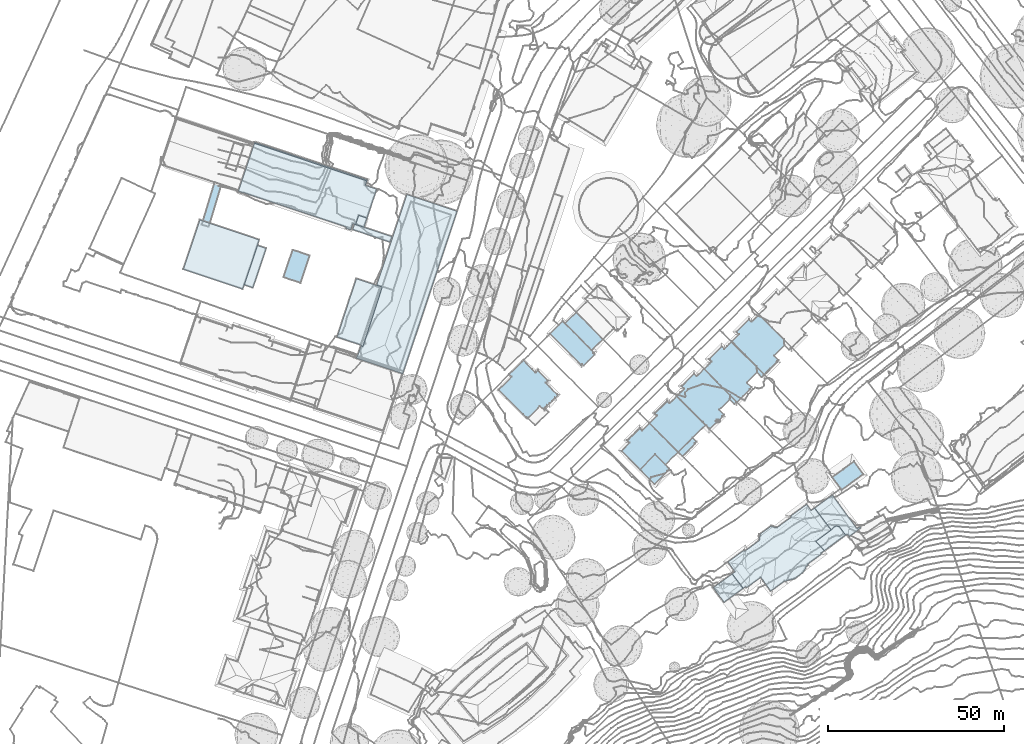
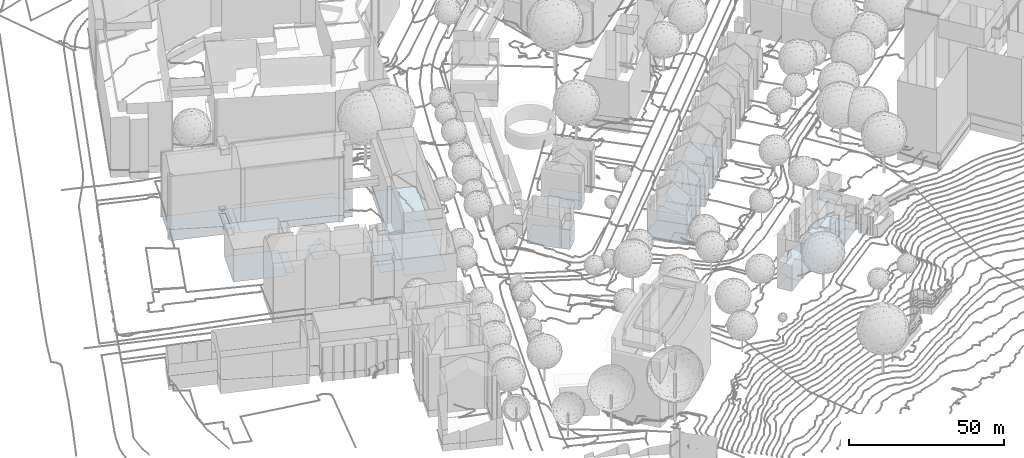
# Not in any storey, part 2 of 477: 14 footings.
"""IFC4 building model written with IfcOpenShell, lengths in metres."""

from ifc_helpers import new_model, si_unit, frame, origin_with_axes, place, context, subcontext, project, spatial, polygons, element, save


model = new_model("IFC4")

# Units and contexts
model_context = context("Model", 3, precision=1e-05, world=origin_with_axes())
body_context = subcontext(model_context, "Body", "Model", "MODEL_VIEW")
ifc_project = project(units=[si_unit("AREAUNIT", "SQUARE_METRE"), si_unit("LENGTHUNIT", "METRE")], contexts=[model_context])

# Sites, building
site_1_placement = place(None, origin_with_axes())
site_1 = spatial("IfcSite", under=ifc_project, at=site_1_placement, Name="Topoexport Site")
site_2_placement = place(site_1_placement, origin_with_axes())
site_2 = spatial("IfcSite", under=site_1, at=site_2_placement, Name="TPX_BUILDINGS")
building_1_placement = place(site_2_placement, frame((173.5807320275, 98.186316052, 528.0961), z_axis=(0.0, 0.0, 1.0), x_axis=(1.0, 0.0, 0.0)))
building_1 = spatial("IfcBuilding", under=site_2, at=building_1_placement, Name="Building 31", CompositionType="ELEMENT")

# Footing
footing_1_placement = place(None, frame((173.5807320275, 98.186316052, 528.0961), z_axis=(0.0, 0.0, 1.0), x_axis=(1.0, 0.0, 0.0)))
element("IfcFooting", 1, at=footing_1_placement, inside=building_1, Name="Floor 0", context=body_context, shape_type="Tessellation", body=[
    polygons([(2.6099999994, 1.9063000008, 0.0), (8.8049999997, 0.8584000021, -0.0001), (2.5949999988, -3.5537, -0.0001), (4.8889999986, 3.5703000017, 0.0), (6.1530000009, 4.4932000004, 0.0), (5.748999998, -1.373999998, -0.0001), (1.0150000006, 0.7412, 0.0), (0.0, 0.0, 0.0), (2.6530000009, -3.6347000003, -0.0001)], [[[1, 2, 3]], [[4, 5, 2]], [[2, 1, 4]], [[2, 6, 3]], [[1, 3, 7]], [[8, 7, 3]], [[9, 3, 6]]]),
])

# Building
building_2_placement = place(site_2_placement, frame((160.7467320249, 68.8533160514, 524.6524), z_axis=(0.0, 0.0, 1.0), x_axis=(1.0, 0.0, 0.0)))
building_2 = spatial("IfcBuilding", under=site_2, at=building_2_placement, Name="Building 63", CompositionType="ELEMENT")

# Footing
footing_2_placement = place(None, frame((160.7467320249, 68.8533160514, 524.6524), z_axis=(0.0, 0.0, 1.0), x_axis=(1.0, 0.0, 0.0)))
element("IfcFooting", 2, at=footing_2_placement, inside=building_2, Name="Floor 1", context=body_context, shape_type="Tessellation", body=[
    polygons([(13.4810000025, 15.2655999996, 0.1969), (13.8940000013, 15.4824000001, 0.1969), (14.825000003, 15.2588, 0.1969), (16.5910000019, 12.8867000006, 0.1969), (12.4710000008, 14.3535000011, 0.1969), (8.1400000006, 11.0918000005, 0.1969), (10.5880000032, 8.4688000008, 0.1969), (-15.1559999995, -4.1854999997, -0.22), (-16.4949999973, -5.1631000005, -0.22), (-20.1969999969, -3.182599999, -0.22), (-17.2149999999, -5.6893999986, -0.22), (-18.2019999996, 0.009800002, -0.22), (-12.5309999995, -2.2675999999, -0.22), (-17.9599999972, -6.2333999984, -0.22), (-18.8389999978, -0.4569999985, -0.22), (-18.432, -0.1581999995, -0.22), (-21.0489999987, -2.0194999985, -0.22), (-15.6519999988, 1.8780000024, -0.22), (-17.981999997, 0.1709000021, -0.22), (-12.0789999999, 8.3399000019, -0.068), (-14.867999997, 2.4521999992, -0.068), (-16.9019999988, 5.2382999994, -0.068), (-12.2789999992, 8.6132999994, -0.068), (-8.0589999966, 11.2774000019, -0.068), (-7.9549999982, 12.2197000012, -0.068), (-7.9149999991, 12.2481000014, -0.068), (-7.8889999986, 12.0234999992, -0.068), (-7.9919999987, 12.3535000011, -0.068), (-7.5029999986, 12.7217000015, -0.068), (-3.6639999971, 15.1104000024, -0.068), (-7.875, 11.8164000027, -0.068), (-8.0029999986, 11.4268000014, -0.068), (-8.0879999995, 11.317400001, -0.068), (-7.8959999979, 11.6797000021, -0.068), (-3.4719999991, 15.0342000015, -0.068), (-7.9389999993, 11.5489000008, -0.068), (-3.3369999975, 15.0117000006, -0.068), (-3.1989999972, 15.0127000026, -0.068), (-2.9029999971, 15.0430000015, -0.068), (-15.6519999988, 1.8780000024, -0.068), (-12.5299999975, -2.2675999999, -0.068), (-11.6019999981, -2.1092999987, -0.068), (-11.8499999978, -1.7705000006, -0.068), (-11.0119999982, -1.6787, -0.068), (-7.5319999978, 0.8632999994, -0.068), (-10.9069999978, -1.6024999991, -0.068), (-6.0219999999, -1.1981999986, -0.068), (-4.1559999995, -2.6512999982, -0.068), (-4.6849999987, -3.0381000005, -0.068), (6.8060000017, 19.9081999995, -0.068), (5.7530000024, 4.5976999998, -0.068), (-0.6710000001, -0.1053999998, -0.068), (-1.8509999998, -0.9677000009, -0.068), (0.0340000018, 0.0234999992, -0.068), (-0.4979999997, -0.3418000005, -0.068), (-7.4729999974, 0.7959000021, -0.068), (8.1400000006, 11.0918000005, -0.068), (1.0109999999, 0.1504000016, -0.068), (0.5250000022, 0.067400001, -0.068), (5.2080000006, 3.4942000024, -0.068), (1.4870000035, 0.2754000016, -0.068), (1.4650000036, 0.2675999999, -0.068), (4.9700000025, 3.0362000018, -0.068), (5.4050000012, 3.9717000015, -0.068), (-4.2929999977, 15.2754000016, -0.068), (-4.5849999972, 15.4717000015, -0.068), (-4.4869999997, 15.5419999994, -0.068), (-4.2719999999, 15.2910000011, -0.068), (-4.2079999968, 15.2050999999, -0.068), (-3.8699999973, 15.2030999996, -0.068), (-3.9909999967, 15.3682000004, -0.068), (-3.8299999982, 15.2324000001, -0.068), (0.9130000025, 18.2558999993, -0.068), (5.5450000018, 21.6367000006, -0.068), (1.1150000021, 17.9785000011, -0.068), (-3.0629999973, 15.0371000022, -0.068), (-2.9339999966, 15.0850000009, -0.068), (5.9300000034, 4.3544999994, -0.068), (1.9539999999, 0.4356000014, -0.068), (4.3800000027, 2.1933999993, -0.068), (2.1630000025, 0.5274000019, -0.068), (4.694000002, 2.6006000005, -0.068), (0.9360000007, 17.8476999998, -0.068), (7.762000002, 20.6064999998, -0.068), (12.4710000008, 14.3535000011, -0.068), (9.6160000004, 7.7530000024, -0.068), (9.7750000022, 7.5351999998, -0.068), (10.5880000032, 8.4688000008, -0.068), (-7.8029999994, 13.1220999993, -0.068), (14.4370000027, 22.1143000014, 0.3329), (10.9910000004, 16.3252000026, 0.3329), (8.9000000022, 19.0967000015, 0.3329), (7.762000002, 20.6064999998, 0.3329), (12.9020000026, 24.2178000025, 0.3329), (12.8330000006, 24.3115000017, 0.3329), (13.8940000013, 15.4824000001, 0.3329), (12.4710000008, 14.3535000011, 0.3329), (13.4810000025, 15.2655999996, 0.3329), (16.813000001, 13.0498000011, 0.3329), (16.5910000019, 12.8867000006, 0.3329), (14.825000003, 15.2588, 0.3329), (19.2700000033, 15.4932000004, 0.3329), (19.5520000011, 15.1084000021, 0.3329), (17.2290000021, 13.0381000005, 0.3329), (20.7070000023, 15.2646999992, 0.3329), (20.9470000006, 14.9453000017, 0.3329), (20.2410000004, 15.0205000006, 0.3329), (19.7880000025, 14.7842000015, 0.3329), (16.9630000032, 12.8438000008, 0.3329), (17.6490000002, 12.4600000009, 0.3329), (17.2780000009, 12.9706999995, 0.3329)], [[[1, 2, 3]], [[3, 4, 5]], [[6, 5, 7]], [[3, 5, 1]], [[4, 7, 5]], [[8, 9, 10]], [[10, 9, 11]], [[8, 12, 13]], [[14, 10, 11]], [[15, 16, 10]], [[10, 17, 15]], [[18, 13, 19]], [[12, 19, 13]], [[16, 12, 8]], [[16, 8, 10]], [[20, 21, 22]], [[23, 20, 22]], [[20, 24, 21]], [[25, 26, 27]], [[28, 29, 26]], [[29, 27, 26]], [[27, 30, 31]], [[32, 24, 33]], [[34, 31, 35]], [[36, 34, 37]], [[36, 24, 32]], [[36, 38, 24]], [[39, 21, 24]], [[40, 21, 41]], [[42, 43, 44]], [[43, 41, 21]], [[43, 21, 45]], [[43, 46, 44]], [[47, 48, 49]], [[45, 46, 43]], [[50, 45, 21]], [[47, 51, 52]], [[53, 48, 47]], [[47, 52, 53]], [[52, 54, 55]], [[56, 57, 47]], [[58, 59, 60]], [[61, 62, 58]], [[61, 58, 63]], [[51, 54, 52]], [[54, 64, 59]], [[57, 56, 45]], [[29, 30, 27]], [[65, 29, 66]], [[65, 66, 67]], [[68, 69, 65]], [[69, 29, 65]], [[29, 70, 30]], [[69, 71, 70]], [[30, 70, 72]], [[69, 70, 29]], [[35, 31, 30]], [[34, 35, 37]], [[73, 74, 75]], [[39, 24, 38]], [[38, 76, 39]], [[36, 37, 38]], [[76, 77, 39]], [[60, 59, 64]], [[78, 64, 51]], [[51, 47, 57]], [[64, 54, 51]], [[58, 60, 63]], [[79, 80, 81]], [[82, 80, 79]], [[61, 82, 79]], [[82, 61, 63]], [[50, 21, 39]], [[75, 50, 83]], [[84, 85, 50]], [[75, 74, 50]], [[45, 50, 57]], [[50, 85, 57]], [[51, 86, 87]], [[57, 88, 86]], [[86, 51, 57]], [[83, 50, 39]], [[29, 89, 66]], [[90, 91, 92]], [[92, 93, 90]], [[90, 93, 94]], [[93, 95, 94]], [[90, 96, 91]], [[97, 91, 98]], [[98, 91, 96]], [[99, 100, 101]], [[99, 101, 102]], [[90, 101, 96]], [[90, 102, 101]], [[103, 104, 102]], [[105, 106, 107]], [[106, 108, 107]], [[99, 104, 109]], [[108, 110, 111]], [[111, 104, 108]], [[108, 106, 110]], [[103, 108, 104]], [[102, 104, 99]]]),
])

# Building
building_3_placement = place(site_2_placement, frame((78.7667320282, 123.0301160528, 529.3211), z_axis=(0.0, 0.0, 1.0), x_axis=(1.0, 0.0, 0.0)))
building_3 = spatial("IfcBuilding", under=site_2, at=building_3_placement, Name="Building 135", CompositionType="ELEMENT")

# Footing
footing_3_placement = place(None, frame((78.7667320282, 123.0301160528, 529.3211), z_axis=(0.0, 0.0, 1.0), x_axis=(1.0, 0.0, 0.0)))
element("IfcFooting", 3, at=footing_3_placement, inside=building_3, Name="Floor 0", context=body_context, shape_type="Tessellation", body=[
    polygons([(16.7109999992, -1.625, -0.0001), (16.5169999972, -1.2813000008, -0.0001), (16.7819999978, -1.5547000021, -0.0001), (14.4459999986, 0.8535000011, -0.0001), (16.0089999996, -2.3194000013, -0.0001), (15.4229999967, -2.9004000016, -0.0001), (13.3699999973, 1.9628999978, 0.0), (15.1199999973, -3.1992000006, -0.0001), (14.436999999, -3.875, -0.0001), (10.4769999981, 4.8680999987, 0.0), (3.7009999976, 3.6631000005, 0.0), (10.6209999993, 5.0106999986, 0.0), (13.9399999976, 2.6543000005, 0.0), (14.0039999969, 2.5907999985, 0.0), (11.1199999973, 5.5058000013, 0.0), (6.5949999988, 7.9648000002, 0.0), (9.5, 5.8563999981, 0.0), (7.0089999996, 8.375, 0.0), (7.0219999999, 8.3612999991, 0.0), (13.7709999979, -4.5351999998, -0.0001), (13.2909999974, -5.009800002, -0.0001), (13.0449999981, -5.2529000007, -0.0001), (13.5549999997, -4.7481000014, -0.0001), (13.3609999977, -5.572300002, -0.0001), (10.2869999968, -10.1006000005, -0.0001), (8.2649999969, -8.126000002, -0.0001), (8.2419999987, -8.1493999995, -0.0001), (7.930999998, -7.8350000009, -0.0001), (14.1019999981, -6.3213, -0.0001), (6.8609999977, -6.9365000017, -0.0001), (2.981999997, 4.3896000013, 0.0), (0.0, 0.0, 0.0), (7.8399999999, -7.9257999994, -0.0001)], [[[1, 2, 3]], [[4, 2, 5]], [[1, 5, 2]], [[6, 7, 4]], [[8, 9, 10]], [[8, 7, 6]], [[5, 6, 4]], [[9, 11, 10]], [[7, 12, 13]], [[13, 14, 7]], [[13, 12, 15]], [[10, 12, 7]], [[10, 11, 16]], [[10, 16, 17]], [[16, 18, 19]], [[19, 17, 16]], [[8, 10, 7]], [[20, 11, 9]], [[21, 22, 11]], [[23, 21, 11]], [[24, 25, 22]], [[26, 22, 25]], [[27, 28, 26]], [[22, 26, 28]], [[29, 25, 24]], [[30, 22, 28]], [[11, 31, 16]], [[30, 32, 11]], [[30, 11, 22]], [[30, 28, 33]], [[11, 20, 23]]]),
])

# Building
building_4_placement = place(site_2_placement, frame((93.366732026, 139.0154160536, 529.92), z_axis=(0.0, 0.0, 1.0), x_axis=(1.0, 0.0, 0.0)))
building_4 = spatial("IfcBuilding", under=site_2, at=building_4_placement, Name="Building 141", CompositionType="ELEMENT")

# Footing
footing_4_placement = place(None, frame((93.366732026, 139.0154160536, 529.92), z_axis=(0.0, 0.0, 1.0), x_axis=(1.0, 0.0, 0.0)))
element("IfcFooting", 4, at=footing_4_placement, inside=building_4, Name="Floor 0", context=body_context, shape_type="Tessellation", body=[
    polygons([(9.0810000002, -8.7324000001, 0.0), (12.6420000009, -5.9756000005, 0.0), (9.506000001, -9.1621000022, 0.0), (12.2569999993, -5.5868999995, 0.0), (12.2200000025, -5.1377000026, 0.0), (12.4629999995, -5.3828000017, 0.0), (0.0, 0.0, 0.0), (3.5109999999, 3.4775999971, 0.0), (0.0580000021, -0.0576000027, 0.0), (3.6000000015, 3.5654999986, 0.0), (8.8610000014, -8.951100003, 0.0), (15.0190000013, -1.5849000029, 0.104), (11.8300000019, -4.7441000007, 0.104), (4.25, 2.9423999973, 0.104), (11.307, 2.1943999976, 0.104), (7.4539999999, 6.1162, 0.104), (3.8320000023, 3.3310999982, 0.104), (3.8489999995, 3.3486999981, 0.104)], [[[1, 2, 3]], [[2, 1, 4]], [[4, 5, 6]], [[5, 4, 1]], [[7, 8, 9]], [[1, 9, 8]], [[10, 5, 8]], [[5, 1, 8]], [[11, 9, 1]], [[12, 13, 14]], [[15, 12, 14]], [[14, 16, 15]], [[17, 18, 14]], [[14, 13, 17]]]),
])

# Building
building_5_placement = place(site_2_placement, frame((-17.4142679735, 188.431416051, 525.0686), z_axis=(0.0, 0.0, 1.0), x_axis=(1.0, 0.0, 0.0)))
building_5 = spatial("IfcBuilding", under=site_2, at=building_5_placement, Name="Building 144", CompositionType="ELEMENT")

# Footing
footing_5_placement = place(None, frame((-17.4142679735, 188.431416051, 525.0686), z_axis=(0.0, 0.0, 1.0), x_axis=(1.0, 0.0, 0.0)))
element("IfcFooting", 5, at=footing_5_placement, inside=building_5, Name="Floor 0", context=body_context, shape_type="Tessellation", body=[
    polygons([(17.3339999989, -7.0936999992, 8.4302), (11.754999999, -18.5126999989, 8.4302), (15.4070000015, -6.4560000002, 8.4302), (13.6959999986, -19.1014999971, 8.4302), (22.2760000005, -8.4432999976, 0.0), (12.7789999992, -5.5868999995, 0.0), (24.4219999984, -2.0252999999, 0.0), (22.0929999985, -8.9891999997, 0.0), (22.1000000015, -8.6708999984, 0.0), (22.0100000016, -9.2381999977, 0.0), (21.9200000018, -9.2088999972, 0.0), (22.0029999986, -8.9608999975, 0.0), (21.7230000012, 6.2393000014, 0.0), (26.5080000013, 4.2090000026, 0.0), (26.7699999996, 4.9922000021, 0.0), (26.6739999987, 4.7041000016, 0.0), (26.6009999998, 5.0479000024, 0.0), (26.4719999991, 4.6592000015, 0.0), (2.512000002, 5.3057000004, 0.0), (1.3909999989, -1.8182999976, 0.0), (0.8969999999, 0.4776000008, 0.0), (0.3359999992, -1.4696999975, 0.0), (0.125, -0.9461999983, 0.0), (1.2199999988, -1.7616999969, 0.0), (0.0370000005, -0.7274999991, 0.0), (0.0, 0.0, 0.0), (0.6290000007, 0.5665000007, 0.0), (4.5980000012, 11.5391000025, 0.0), (4.1920000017, 11.6749000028, 0.0), (4.438000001, 11.9902999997, 0.0), (4.3370000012, 12.1456000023, 0.0), (4.4739999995, 12.0997000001, 0.0), (0.2430000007, 0.6953999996, 0.0)], [[[1, 2, 3]], [[2, 1, 4]], [[5, 6, 7]], [[5, 8, 9]], [[10, 11, 8]], [[8, 12, 9]], [[6, 5, 9]], [[8, 11, 12]], [[7, 13, 14]], [[15, 16, 17]], [[14, 18, 16]], [[17, 16, 18]], [[14, 13, 18]], [[7, 19, 13]], [[6, 20, 21]], [[22, 23, 24]], [[20, 24, 25]], [[21, 20, 25]], [[26, 27, 21]], [[21, 25, 26]], [[24, 23, 25]], [[21, 19, 6]], [[28, 29, 30]], [[13, 19, 28]], [[30, 31, 32]], [[28, 30, 13]], [[27, 26, 33]], [[31, 30, 29]], [[6, 19, 7]]]),
])

# Building
building_6_placement = place(site_2_placement, frame((-10.9342679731, 157.2918160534, 524.6136), z_axis=(0.0, 0.0, 1.0), x_axis=(1.0, 0.0, 0.0)))
building_6 = spatial("IfcBuilding", under=site_2, at=building_6_placement, Name="Building 146", CompositionType="ELEMENT")

# Footing
footing_6_placement = place(None, frame((-10.9342679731, 157.2918160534, 524.6136), z_axis=(0.0, 0.0, 1.0), x_axis=(1.0, 0.0, 0.0)))
element("IfcFooting", 6, at=footing_6_placement, inside=building_6, Name="Floor 0", context=body_context, shape_type="Tessellation", body=[
    polygons([(19.7899999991, -5.2871000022, 0.176), (21.2219999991, 6.7558999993, 0.176), (23.5460000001, 5.9354999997, 0.176), (17.2980000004, -4.4092000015, 0.176), (21.0749999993, 6.8594000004, 0.176), (21.2390000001, 6.8037, 0.176), (4.6970000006, 14.0351999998, 0.0001), (17.2980000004, -4.4092000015, 0.0), (0.0, 0.0, 0.0), (16.8500000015, -5.6377000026, 0.0), (21.5859999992, 8.3838, 0.0)], [[[1, 2, 3]], [[1, 4, 2]], [[5, 6, 2]], [[2, 4, 5]], [[7, 8, 9]], [[8, 10, 9]], [[7, 11, 8]]]),
])

# Building
building_7_placement = place(site_2_placement, frame((4.678732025, 179.4422160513, 524.9256), z_axis=(0.0, 0.0, 1.0), x_axis=(1.0, 0.0, 0.0)))
building_7 = spatial("IfcBuilding", under=site_2, at=building_7_placement, Name="Building 147", CompositionType="ELEMENT")

# Footing
footing_7_placement = place(None, frame((4.678732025, 179.4422160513, 524.9256), z_axis=(0.0, 0.0, 1.0), x_axis=(1.0, 0.0, 0.0)))
element("IfcFooting", 7, at=footing_7_placement, inside=building_7, Name="Floor 0", context=body_context, shape_type="Tessellation", body=[
    polygons([(43.1650000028, -14.4452999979, 12.5228), (35.7380000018, -10.1992000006, 12.5228), (43.6950000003, -12.8622999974, 12.5228), (32.5140000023, -10.8808999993, 12.5228), (33.0109999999, -9.3974999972, 12.5228), (33.0440000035, -9.2987999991, 12.5228), (36.6060000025, -7.6074000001, 0.238), (35.7380000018, -10.1992000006, 0.238), (36.5780000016, -7.5986000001, 0.238), (33.3580000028, -9.4032999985, 0.238), (34.2250000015, -6.811499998, 0.238), (36.5380000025, 3.0, 1.0749), (36.7360000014, 3.3368999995, 1.0749), (36.2010000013, 1.7187000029, 1.0749), (36.6740000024, 1.5516999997, 1.0749), (36.1120000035, 1.7265000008, 1.0749), (35.3289999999, 3.7930000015, 1.0749), (21.8880000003, 8.2607000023, 1.0749), (4.6790000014, 13.9805000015, 1.0749), (11.4680000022, 11.7236000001, 1.0749), (4.5810000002, 13.6933000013, 1.0749), (2.3289999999, 6.9638999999, 0.0), (1.3570000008, -0.3407999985, 0.0), (0.1830000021, 0.5459000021, 0.0), (22.4830000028, -7.3984999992, 0.0), (34.2250000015, -6.811499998, 0.0), (0.0, 0.0, 0.0), (1.3440000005, -0.3779000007, 0.0), (1.325000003, -0.4375, 0.0), (30.7270000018, -10.1532999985, -0.007), (32.5310000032, -9.2372999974, -0.007), (31.9560000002, -10.9550999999, -0.007), (30.6080000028, -10.5058999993, -0.007), (4.5810000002, 13.6933000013, 0.0), (36.1120000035, 1.7265000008, 0.0), (36.5380000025, 3.0, 0.0), (37.512000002, -4.8085999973, 0.0), (39.3370000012, 0.6474000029, 0.0), (36.5780000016, -7.5986000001, 0.0), (33.0440000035, -9.2987999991, 0.0), (33.0109999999, -9.3974999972, -0.007), (33.3580000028, -9.4032999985, 0.0)], [[[1, 2, 3]], [[1, 4, 2]], [[2, 5, 6]], [[2, 4, 5]], [[7, 8, 9]], [[10, 11, 9]], [[9, 8, 10]], [[12, 13, 14]], [[15, 16, 14]], [[12, 14, 16]], [[13, 12, 17]], [[17, 12, 18]], [[19, 20, 21]], [[18, 21, 20]], [[18, 12, 21]], [[22, 23, 24]], [[25, 22, 26]], [[23, 22, 25]], [[23, 27, 24]], [[28, 29, 27]], [[27, 23, 28]], [[30, 25, 31]], [[30, 32, 33]], [[22, 34, 35]], [[35, 34, 36]], [[26, 22, 37]], [[35, 38, 37]], [[37, 39, 26]], [[31, 25, 26]], [[32, 30, 31]], [[31, 40, 41]], [[42, 40, 26]], [[31, 26, 40]], [[37, 22, 35]]]),
])

# Building
building_8_placement = place(site_2_placement, frame((32.7697320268, 138.0096160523, 524.7246), z_axis=(0.0, 0.0, 1.0), x_axis=(1.0, 0.0, 0.0)))
building_8 = spatial("IfcBuilding", under=site_2, at=building_8_placement, Name="Building 149", CompositionType="ELEMENT")

# Footing
footing_8_placement = place(None, frame((32.7697320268, 138.0096160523, 524.7246), z_axis=(0.0, 0.0, 1.0), x_axis=(1.0, 0.0, 0.0)))
element("IfcFooting", 8, at=footing_8_placement, inside=building_8, Name="Floor 0", context=body_context, shape_type="Tessellation", body=[
    polygons([(18.5610000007, -10.371100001, 0.5129), (7.3539999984, -2.6719000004, 0.5129), (12.8390000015, 14.2743999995, 0.5129), (34.1330000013, 35.7822000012, 0.5129), (19.8390000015, 40.557599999, 0.5129), (11.2410000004, 14.7910000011, 0.5129), (5.9189999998, -5.0273999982, 0.5129), (6.7589999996, -2.4785000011, 0.5129), (18.6719999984, -10.4081999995, 0.5129), (18.8999999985, -9.7276000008, 0.5129), (5.4809999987, -5.9932000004, 0.5129), (5.8159999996, -4.9932000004, 0.5129), (12.8390000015, 14.2743999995, 0.0), (11.2149999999, 14.7138000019, 0.0), (11.2410000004, 14.7910000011, 0.0), (0.0, 0.0, 0.0), (5.4600000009, 16.6367000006, 0.0), (6.8339999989, -2.2529999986, 0.0), (7.3539999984, -2.6719000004, 0.0), (6.7589999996, -2.4785000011, 0.0)], [[[1, 2, 3]], [[3, 4, 1]], [[3, 5, 4]], [[6, 5, 3]], [[7, 8, 2]], [[9, 1, 10]], [[2, 1, 11]], [[7, 11, 12]], [[11, 7, 2]], [[4, 10, 1]], [[13, 14, 15]], [[14, 16, 17]], [[18, 14, 13]], [[19, 20, 18]], [[18, 13, 19]], [[16, 14, 18]]]),
])

# Building
building_9_placement = place(site_2_placement, frame((17.559732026, 155.003716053, 524.8416), z_axis=(0.0, 0.0, 1.0), x_axis=(1.0, 0.0, 0.0)))
building_9 = spatial("IfcBuilding", under=site_2, at=building_9_placement, Name="Building 150", CompositionType="ELEMENT")

# Footing
footing_9_placement = place(None, frame((17.559732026, 155.003716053, 524.8416), z_axis=(0.0, 0.0, 1.0), x_axis=(1.0, 0.0, 0.0)))
element("IfcFooting", 9, at=footing_9_placement, inside=building_9, Name="Floor 0", context=body_context, shape_type="Tessellation", body=[
    polygons([(7.4270000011, 6.1679999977, 0.0), (0.0, 0.0, 0.0), (2.5899999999, 7.7705000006, 0.0), (4.8289999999, -1.629900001, 0.0)], [[[1, 2, 3]], [[2, 1, 4]]]),
])

# Building
building_10_placement = place(site_2_placement, frame((121.6327320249, 113.5477160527, 529.229), z_axis=(0.0, 0.0, 1.0), x_axis=(1.0, 0.0, 0.0)))
building_10 = spatial("IfcBuilding", under=site_2, at=building_10_placement, Name="Building 156", CompositionType="ELEMENT")

# Footing
footing_10_placement = place(None, frame((121.6327320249, 113.5477160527, 529.229), z_axis=(0.0, 0.0, 1.0), x_axis=(1.0, 0.0, 0.0)))
element("IfcFooting", 10, at=footing_10_placement, inside=building_10, Name="Floor 0", context=body_context, shape_type="Tessellation", body=[
    polygons([(11.4760000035, 3.9510999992, 0.0), (2.1090000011, 2.0947000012, 0.0), (5.6550000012, 5.6162, 0.0), (7.745000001, 7.6904000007, 0.0), (5.0610000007, 6.2137999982, 0.0), (15.943, -0.5274000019, 0.0), (8.1550000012, -8.2149000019, 0.0), (3.699000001, -3.7265999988, 0.0), (0.0, 0.0, 0.0), (1.5050000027, 2.7030999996, 0.0), (4.943, 6.3330000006, 0.581), (5.0610000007, 6.2137999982, 0.581), (1.5050000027, 2.7030999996, 0.581), (1.4030000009, 2.8055999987, 0.581), (1.5170000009, 2.9199000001, 0.581), (9.3650000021, -9.4365999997, 0.11), (8.1550000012, -8.2149000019, 0.11), (11.1170000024, -7.697300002, 0.11), (12.8720000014, -5.7422000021, 0.11), (12.9780000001, -5.8487000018, 0.11), (12.2860000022, -4.1367999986, 0.11), (13.376000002, -5.2413000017, 0.11)], [[[1, 2, 3]], [[4, 1, 3]], [[3, 2, 5]], [[6, 7, 1]], [[8, 2, 1]], [[8, 9, 2]], [[10, 5, 2]], [[1, 7, 8]], [[11, 12, 13]], [[13, 14, 15]], [[15, 11, 13]], [[16, 17, 18]], [[18, 19, 20]], [[21, 19, 18]], [[18, 17, 21]], [[22, 19, 21]]]),
])

# Building
building_11_placement = place(site_2_placement, frame((145.0367320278, 136.7889160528, 530.3359), z_axis=(0.0, 0.0, 1.0), x_axis=(1.0, 0.0, 0.0)))
building_11 = spatial("IfcBuilding", under=site_2, at=building_11_placement, Name="Building 157", CompositionType="ELEMENT")

# Footing
footing_11_placement = place(None, frame((145.0367320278, 136.7889160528, 530.3359), z_axis=(0.0, 0.0, 1.0), x_axis=(1.0, 0.0, 0.0)))
element("IfcFooting", 11, at=footing_11_placement, inside=building_11, Name="Floor 0", context=body_context, shape_type="Tessellation", body=[
    polygons([(7.7559999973, 7.7080000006, 0.0), (11.4719999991, 3.942400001, 0.0), (7.6840000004, 7.6356999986, 0.0), (5.5709999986, 5.5361000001, 0.0), (3.6909999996, -3.7382999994, 0.0), (12.0219999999, -4.0478999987, 0.0), (2.0229999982, 2.0097000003, 0.0), (1.3139999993, 2.7236000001, 0.0), (4.8559999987, 6.2558000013, 0.0), (0.0, 0.0, 0.0), (14.7809999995, 0.5907999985, 0.0), (14.8420000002, -0.4834000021, 0.0), (14.9709999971, -1.1367999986, 0.0), (7.0009999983, -7.0918000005, 0.0), (12.7619999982, -5.8594000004, 0.0), (9.2779999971, -9.5175999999, 0.0), (12.7569999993, -5.8506000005, 0.0), (12.8619999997, -5.9571000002, 0.0), (13.2839999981, -5.3251999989, 0.0), (8.9679999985, -9.6143000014, 0.0), (7.1789999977, -8.8291000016, 0.0), (8.4560000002, -10.1220999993, 0.0), (9.0729999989, -9.7197999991, 0.0)], [[[1, 2, 3]], [[3, 2, 4]], [[5, 4, 6]], [[6, 4, 2]], [[7, 8, 9]], [[4, 7, 9]], [[10, 7, 5]], [[5, 7, 4]], [[11, 12, 2]], [[13, 6, 12]], [[14, 5, 6]], [[15, 16, 17]], [[16, 15, 18]], [[17, 6, 19]], [[17, 14, 6]], [[20, 21, 14]], [[14, 16, 20]], [[20, 22, 21]], [[20, 16, 23]], [[17, 16, 14]], [[2, 12, 6]]]),
])

# Building
building_12_placement = place(site_2_placement, frame((129.3807320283, 121.2410160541, 529.389), z_axis=(0.0, 0.0, 1.0), x_axis=(1.0, 0.0, 0.0)))
building_12 = spatial("IfcBuilding", under=site_2, at=building_12_placement, Name="Building 158", CompositionType="ELEMENT")

# Footing
footing_12_placement = place(None, frame((129.3807320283, 121.2410160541, 529.389), z_axis=(0.0, 0.0, 1.0), x_axis=(1.0, 0.0, 0.0)))
element("IfcFooting", 12, at=footing_12_placement, inside=building_12, Name="Floor 0", context=body_context, shape_type="Tessellation", body=[
    polygons([(1.4689999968, 2.8847999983, 0.0), (4.9139999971, 6.2929999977, 0.0), (5.6769999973, 5.6347999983, 0.0), (4.9689999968, 6.3476999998, 0.0), (11.436999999, 4.0, 0.0), (6.1789999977, 6.1338, 0.0), (7.7709999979, 7.7148999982, 0.0), (2.129999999, 2.1093999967, 0.0), (12.0719999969, -3.9072000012, 0.0), (2.0779999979, 2.1630999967, 0.0), (1.4139999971, 2.8310999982, 0.0), (3.6529999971, -3.6670000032, 0.0), (1.0649999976, 1.0546999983, 0.0), (1.1019999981, -1.1103000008, 0.0), (0.0, 0.0, 0.0), (15.0709999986, -0.9463, 0.0), (13.3809999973, -5.2334000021, 0.0), (12.8719999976, -5.7383000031, 0.0), (12.9780000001, -5.8447000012, 0.0), (10.9439999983, -7.8652000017, 0.0), (7.368999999, -7.3916000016, 0.0), (7.4229999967, -7.4453000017, 0.0), (5.2979999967, -5.3164000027, 0.0), (9.3859999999, -9.4131000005, 0.0), (9.1939999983, -9.2207000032, 0.0), (8.4499999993, -8.4756000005, 0.0), (15.1030000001, 0.2861999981, 0.0)], [[[1, 2, 3]], [[4, 3, 2]], [[5, 6, 7]], [[6, 5, 3]], [[8, 1, 3]], [[8, 3, 9]], [[10, 11, 1]], [[8, 10, 1]], [[12, 13, 8]], [[14, 15, 13]], [[13, 12, 14]], [[3, 5, 9]], [[9, 5, 16]], [[17, 18, 9]], [[12, 8, 9]], [[18, 19, 20]], [[9, 18, 20]], [[20, 21, 9]], [[21, 20, 22]], [[23, 9, 21]], [[12, 9, 23]], [[24, 25, 20]], [[26, 22, 20]], [[20, 25, 26]], [[27, 16, 5]]]),
])

# Building
building_13_placement = place(site_2_placement, frame((137.1517320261, 128.9559160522, 529.729), z_axis=(0.0, 0.0, 1.0), x_axis=(1.0, 0.0, 0.0)))
building_13 = spatial("IfcBuilding", under=site_2, at=building_13_placement, Name="Building 159", CompositionType="ELEMENT")

# Footing
footing_13_placement = place(None, frame((137.1517320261, 128.9559160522, 529.729), z_axis=(0.0, 0.0, 1.0), x_axis=(1.0, 0.0, 0.0)))
element("IfcFooting", 13, at=footing_13_placement, inside=building_13, Name="Floor 0", context=body_context, shape_type="Tessellation", body=[
    polygons([(1.4270000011, 2.8348999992, 0.0), (4.9609999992, 6.3583999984, 0.0), (5.6860000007, 5.6484000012, 0.0), (11.5760000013, 4.0947000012, 0.0), (6.4840000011, 6.4404000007, 0.0), (12.1390000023, -3.8847999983, 0.0), (7.7970000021, 7.746100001, 0.0), (2.1350000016, 2.1220000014, 0.0), (9.3619999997, -9.4327000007, 0.0), (3.6660000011, -3.7148999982, 0.0), (0.0, 0.0, 0.0), (0.9400000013, 0.9345000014, 0.0), (7.8850000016, 7.8330000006, 0.0), (14.8859999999, 0.7412, 0.0), (15.0639999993, -0.996100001, 0.0), (12.9030000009, -5.7725000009, 0.0), (12.868999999, -5.7382999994, 0.0), (12.9750000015, -5.8438000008, 0.0), (13.4239999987, -5.1875, 0.0), (7.3320000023, -7.4287, 0.0), (9.0729999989, -9.5078000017, 0.0), (8.5989999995, -9.9794999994, 0.0), (7.3000000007, -8.6611999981, 0.0), (9.1790000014, -9.6143000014, 0.0)], [[[1, 2, 3]], [[4, 3, 5]], [[3, 6, 1]], [[5, 7, 4]], [[1, 6, 8]], [[8, 9, 10]], [[10, 11, 12]], [[12, 8, 10]], [[13, 4, 7]], [[14, 15, 4]], [[3, 15, 6]], [[8, 6, 9]], [[16, 9, 17]], [[16, 18, 9]], [[9, 6, 17]], [[17, 6, 19]], [[20, 9, 21]], [[21, 22, 23]], [[23, 20, 21]], [[9, 24, 21]], [[9, 20, 10]], [[4, 15, 3]]]),
])

# Building
building_14_placement = place(site_2_placement, frame((113.678732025, 105.6463160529, 529.229), z_axis=(0.0, 0.0, 1.0), x_axis=(1.0, 0.0, 0.0)))
building_14 = spatial("IfcBuilding", under=site_2, at=building_14_placement, Name="Building 160", CompositionType="ELEMENT")

# Footing
footing_14_placement = place(None, frame((113.678732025, 105.6463160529, 529.229), z_axis=(0.0, 0.0, 1.0), x_axis=(1.0, 0.0, 0.0)))
element("IfcFooting", 14, at=footing_14_placement, inside=building_14, Name="Floor 0", context=body_context, shape_type="Tessellation", body=[
    polygons([(5.0930000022, 6.4853000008, 0.265), (5.1290000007, 6.5214999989, 0.265), (5.2250000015, 6.4248000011, 0.265), (1.7100000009, 3.120099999, 0.265), (1.6720000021, 2.9160000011, 0.265), (1.5890000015, 2.998999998, 0.265), (2.2990000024, 2.2841999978, 0.0), (5.8420000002, 5.8037, 0.0), (11.6530000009, 4.1748000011, 0.0), (16.1090000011, -0.313500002, 0.0), (9.5590000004, -0.9844000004, 0.0), (7.9539999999, 7.9013999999, 0.0), (1.6720000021, 2.9160000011, 0.0), (5.2250000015, 6.4248000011, 0.0), (12.4560000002, -3.9199000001, 0.0), (5.2260000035, -5.2626999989, 0.0), (0.0, 0.0, 0.0), (5.2250000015, -5.2637000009, -0.047), (11.200000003, -7.6123000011, -0.047), (5.3280000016, -5.3672000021, -0.047), (9.3660000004, -9.4345999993, -0.047), (9.5590000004, -0.9844000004, -0.047), (13.5700000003, -5.0478999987, -0.047), (13.064000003, -5.5507999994, -0.047), (13.1690000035, -5.6563000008, -0.047)], [[[1, 2, 3]], [[3, 4, 1]], [[5, 6, 4]], [[4, 3, 5]], [[7, 8, 9]], [[9, 10, 11]], [[8, 12, 9]], [[13, 14, 8]], [[11, 10, 15]], [[16, 7, 11]], [[8, 7, 13]], [[7, 16, 17]], [[9, 11, 7]], [[18, 19, 20]], [[21, 20, 19]], [[22, 19, 18]], [[23, 24, 22]], [[25, 19, 24]], [[24, 19, 22]]]),
])

save(model, "model.ifc")
